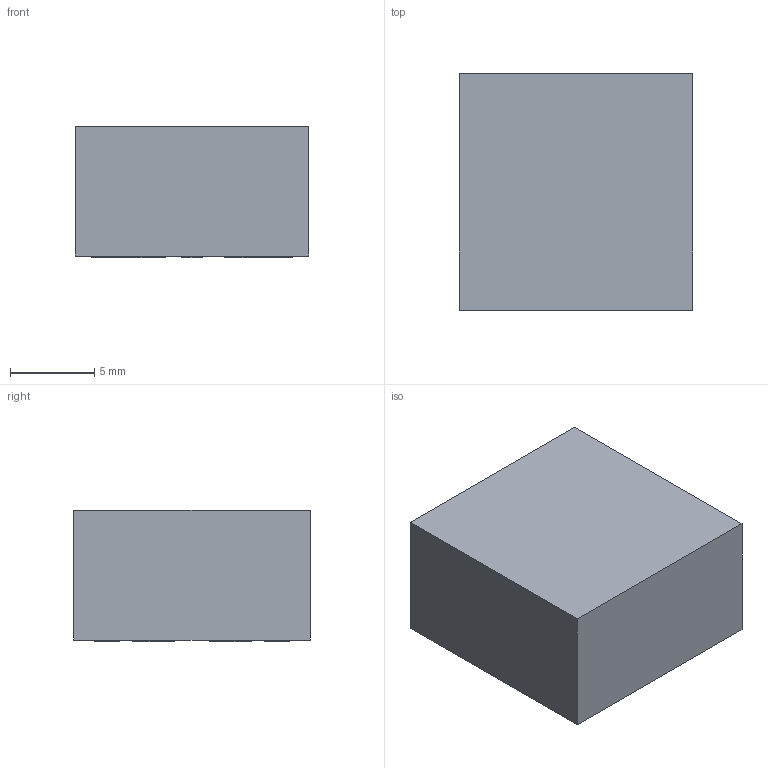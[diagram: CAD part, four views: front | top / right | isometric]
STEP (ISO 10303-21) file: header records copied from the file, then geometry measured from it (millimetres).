
FILE_DESCRIPTION(('FreeCAD Model'),'2;1');
FILE_NAME('/var/www/3D/0T/20051172.1.3.stp','2025-02-16T10:51:08',( 'Author'),(''),'Open CASCADE STEP processor 6.9','FreeCAD','Unknown' );
FILE_SCHEMA(('AUTOMOTIVE_DESIGN { 1 0 10303 214 1 1 1 1 }'));
Length unit declared in the file: millimetre
Products named in the file (3): ASSEMBLY; Body; Pins
Assembly tree (2 placements, depth 2):
  ASSEMBLY
    Body
    Pins
Bounding box: 13.8 x 14 x 7.78 mm (x, y, z)
Volume: 1487.9 mm3; surface area: 906.3 mm2
Topology: 15 solids, 15 shells, 90 faces, 180 edges, 120 vertices
Faces by surface type: plane 90
Entity records: 4781 total; most frequent: CARTESIAN_POINT 753, DIRECTION 726, LINE 540, VECTOR 540, ORIENTED_EDGE 360, PCURVE 360, DEFINITIONAL_REPRESENTATION 360, EDGE_CURVE 180
